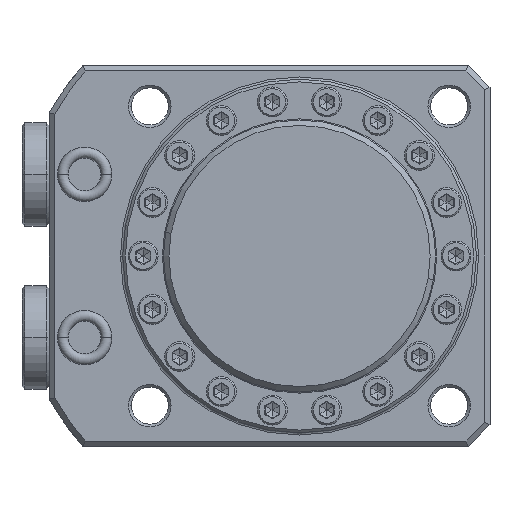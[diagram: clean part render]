
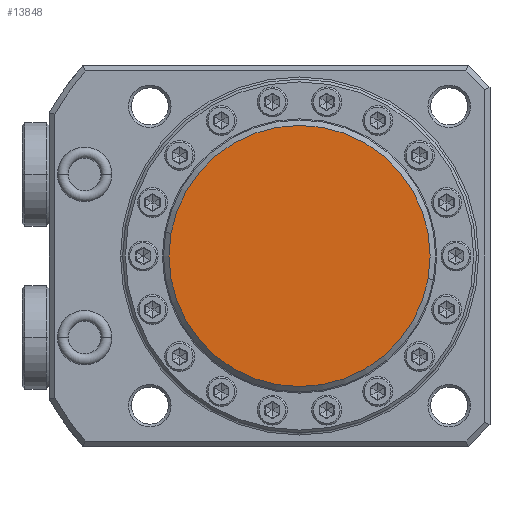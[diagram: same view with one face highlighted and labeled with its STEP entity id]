
A CAD part, front view. The second image highlights one B-rep face of the part: STEP entity #13848.
In plain terms, the highlighted planar face has unit normal (0, -1, 0) as drawn and (0, 0, 1) by its records, which use the part's own axes.
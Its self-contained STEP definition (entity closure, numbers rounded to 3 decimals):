
#12235=CARTESIAN_POINT('',(0.,0.,0.));
#12236=DIRECTION('',(0.,0.,1.));
#12237=DIRECTION('',(-1.,0.,0.));
#12238=AXIS2_PLACEMENT_3D('',#12235,#12236,#12237);
#12240=CARTESIAN_POINT('',(0.,0.,0.));
#12241=DIRECTION('',(0.,0.,1.));
#12242=DIRECTION('',(1.,0.,0.));
#12243=AXIS2_PLACEMENT_3D('',#12240,#12241,#12242);
#13517=CARTESIAN_POINT('',(-24.,0.,0.));
#13518=CARTESIAN_POINT('',(24.,0.,0.));
#13519=VERTEX_POINT('',#13517);
#13520=VERTEX_POINT('',#13518);
#13837=CARTESIAN_POINT('',(0.,0.,0.));
#13838=DIRECTION('',(0.,0.,1.));
#13839=DIRECTION('',(-1.,0.,0.));
#13840=AXIS2_PLACEMENT_3D('',#13837,#13838,#13839);
#13841=PLANE('',#13840);
#13843=ORIENTED_EDGE('',*,*,#13842,.F.);
#13845=ORIENTED_EDGE('',*,*,#13844,.F.);
#13846=EDGE_LOOP('',(#13843,#13845));
#13847=FACE_OUTER_BOUND('',#13846,.F.);
#13848=ADVANCED_FACE('',(#13847),#13841,.T.);
#12239=CIRCLE('',#12238,24.);
#12244=CIRCLE('',#12243,24.);
#13842=EDGE_CURVE('',#13519,#13520,#12239,.T.);
#13844=EDGE_CURVE('',#13520,#13519,#12244,.T.);
